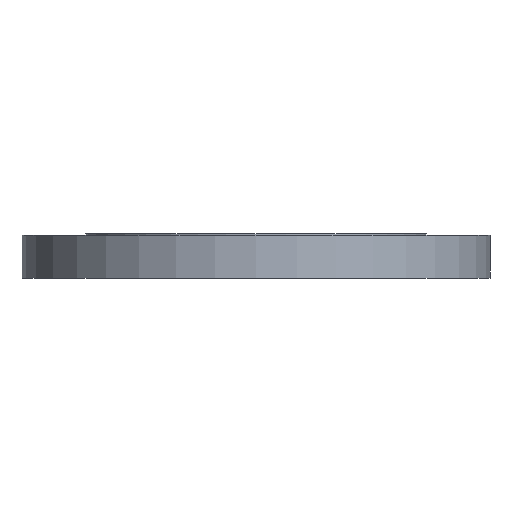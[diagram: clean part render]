
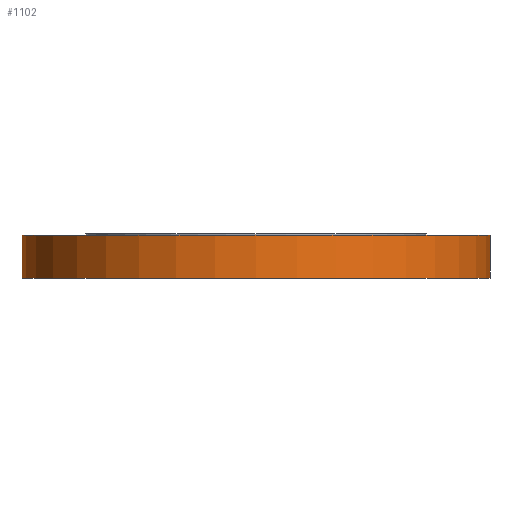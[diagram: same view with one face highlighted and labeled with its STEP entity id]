
A CAD part, front view. The second image highlights one B-rep face of the part: STEP entity #1102.
In plain terms, the highlighted cylindrical face has radius 445 mm (diameter 890 mm), a partial arc.
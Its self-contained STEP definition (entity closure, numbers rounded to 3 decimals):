
#108 = DIRECTION ( 'NONE',  ( -1., 0., 0. ) ) ;
#109 = DIRECTION ( 'NONE',  ( 0., 0., -1. ) ) ;
#110 = CARTESIAN_POINT ( 'NONE',  ( 0., 0., -84. ) ) ;
#190 = VECTOR ( 'NONE', #480, 1000. ) ;
#192 = CARTESIAN_POINT ( 'NONE',  ( 445., 0., -84. ) ) ;
#216 = CIRCLE ( 'NONE', #227, 445. ) ;
#227 = AXIS2_PLACEMENT_3D ( 'NONE', #110, #109, #108 ) ;
#234 = CARTESIAN_POINT ( 'NONE',  ( -445., 0., -84. ) ) ;
#343 = CIRCLE ( 'NONE', #1274, 445. ) ;
#480 = DIRECTION ( 'NONE',  ( 0., 0., 1. ) ) ;
#482 = CARTESIAN_POINT ( 'NONE',  ( 445., 0., -150. ) ) ;
#483 = LINE ( 'NONE', #482, #190 ) ;
#506 = DIRECTION ( 'NONE',  ( -1., 0., 0. ) ) ;
#507 = DIRECTION ( 'NONE',  ( 0., 0., -1. ) ) ;
#513 = CARTESIAN_POINT ( 'NONE',  ( 0., 0., -3. ) ) ;
#518 = CARTESIAN_POINT ( 'NONE',  ( -445., 0., -3. ) ) ;
#582 = CARTESIAN_POINT ( 'NONE',  ( 445., 0., -3. ) ) ;
#592 = EDGE_CURVE ( 'NONE', #1559, #1258, #885, .T. ) ;
#643 = DIRECTION ( 'NONE',  ( 1., 0., 0. ) ) ;
#645 = CYLINDRICAL_SURFACE ( 'NONE', #1184, 445. ) ;
#646 = CARTESIAN_POINT ( 'NONE',  ( 0., 0., -150. ) ) ;
#649 = DIRECTION ( 'NONE',  ( 0., 0., 1. ) ) ;
#654 = FACE_OUTER_BOUND ( 'NONE', #1210, .T. ) ;
#881 = DIRECTION ( 'NONE',  ( 0., 0., 1. ) ) ;
#884 = CARTESIAN_POINT ( 'NONE',  ( -445., 0., -150. ) ) ;
#885 = LINE ( 'NONE', #884, #1000 ) ;
#1000 = VECTOR ( 'NONE', #881, 1000. ) ;
#1102 = ADVANCED_FACE ( 'NONE', ( #654 ), #645, .T. ) ;
#1167 = VERTEX_POINT ( 'NONE', #582 ) ;
#1184 = AXIS2_PLACEMENT_3D ( 'NONE', #646, #649, #643 ) ;
#1210 = EDGE_LOOP ( 'NONE', ( #1671, #1670, #1669, #1668 ) ) ;
#1258 = VERTEX_POINT ( 'NONE', #518 ) ;
#1269 = EDGE_CURVE ( 'NONE', #1167, #1258, #343, .T. ) ;
#1274 = AXIS2_PLACEMENT_3D ( 'NONE', #513, #507, #506 ) ;
#1277 = EDGE_CURVE ( 'NONE', #1611, #1167, #483, .T. ) ;
#1559 = VERTEX_POINT ( 'NONE', #234 ) ;
#1611 = VERTEX_POINT ( 'NONE', #192 ) ;
#1668 = ORIENTED_EDGE ( 'NONE', *, *, #1269, .T. ) ;
#1669 = ORIENTED_EDGE ( 'NONE', *, *, #1277, .T. ) ;
#1670 = ORIENTED_EDGE ( 'NONE', *, *, #1753, .F. ) ;
#1671 = ORIENTED_EDGE ( 'NONE', *, *, #592, .F. ) ;
#1753 = EDGE_CURVE ( 'NONE', #1611, #1559, #216, .T. ) ;
